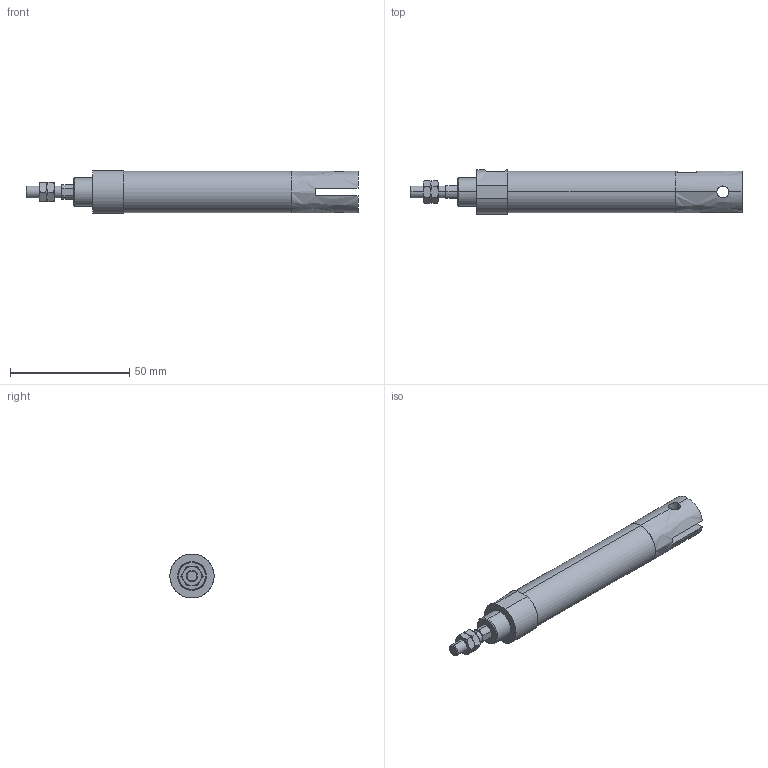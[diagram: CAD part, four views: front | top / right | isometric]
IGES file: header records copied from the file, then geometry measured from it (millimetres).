
Start section: SolidWorks IGES file using analytic representation for surfaces
Global section: file name: C:\Users\Toshiba\Desktop\ZGU2-16-45-W.IGS; native system: SolidWorks 2014; preprocessor: SolidWorks 2014; author: Toshiba; date: 160331.090049; units: millimetre
Bounding box: 139 x 18.5 x 17.6 mm (x, y, z)
Surface area: 8549.9 mm2 (no closed solid volume)
Topology: 0 solids, 0 shells, 94 faces, 1446 edges, 1442 vertices
Faces by surface type: bspline 61, revolution 33
